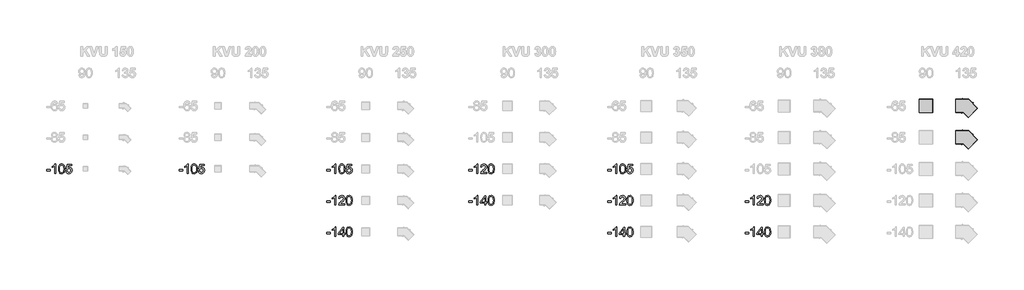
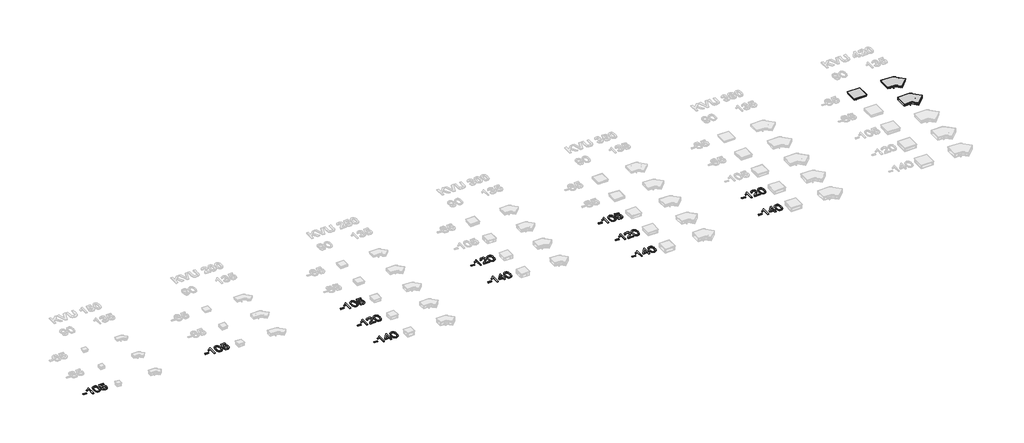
# One storey, part 2 of 6: 18 proxies.
"""IFC4 building model written with IfcOpenShell, lengths in millimetres."""

from ifc_helpers import new_model, si_unit, origin, origin_with_axes, place, context, project, spatial, polyline, outline, extrude, transform, mapped, element, save
from components import mechanical_equipment_346dda6b, mechanical_equipment_fd9d8960, mechanical_equipment_7196e186, mechanical_equipment_f14935d1, mechanical_equipment_ce1018f7

model = new_model("IFC4")

# Units and contexts
model_context = context("Model", 3, world=origin())
ifc_project = project(units=[si_unit("LENGTHUNIT", "METRE", prefix="MILLI")], contexts=[model_context])

# Site, building, storey
site = spatial("IfcSite", under=ifc_project)
building = spatial("IfcBuilding", under=site)
storey = spatial("IfcBuildingStorey", under=building, Name="Этаж 01", Elevation=0.0)

# Proxies
placement = place(None, origin())
mechanical_equipment_shape = mechanical_equipment_346dda6b(model_context)
element("IfcBuildingElementProxy", 1, Name="TECHNO_Угловой элемент_KVU : 420_065_90°", ObjectType="TECHNO_Угловой элемент_KVU : 420_065_90°", at=placement, inside=storey, context=model_context, shape_type="MappedRepresentation", body=[
    mapped(mechanical_equipment_shape, transform((23528.7177503, 1218.1365205, 0.0), x_axis=(1.0, 0.0, 0.0), y_axis=(0.0, 1.0, 0.0), z_axis=(0.0, 0.0, 1.0))),
])
mechanical_equipment_2_shape = mechanical_equipment_fd9d8960(model_context)
element("IfcBuildingElementProxy", 2, Name="TECHNO_Решетка_KVU : Решетка рулонная деревянная / Светлое дерево", ObjectType="TECHNO_Решетка_KVU : Решетка рулонная деревянная / Светлое дерево", at=placement, inside=storey, context=model_context, shape_type="MappedRepresentation", body=[
    mapped(mechanical_equipment_2_shape, transform((23738.7177503, 1218.1365205, 0.0), x_axis=(1.0, 0.0, 0.0), y_axis=(0.0, 1.0, 0.0), z_axis=(0.0, 0.0, 1.0))),
])
mechanical_equipment_3_shape = mechanical_equipment_7196e186(model_context)
element("IfcBuildingElementProxy", 3, Name="TECHNO_Угловой элемент_KVU : 420_065_135°", ObjectType="TECHNO_Угловой элемент_KVU : 420_065_135°", at=placement, inside=storey, context=model_context, shape_type="MappedRepresentation", body=[
    mapped(mechanical_equipment_3_shape, transform((24685.1025984, 1218.1365205, 0.0), x_axis=(1.0, 0.0, 0.0), y_axis=(0.0, 1.0, 0.0), z_axis=(0.0, 0.0, 1.0))),
])
mechanical_equipment_4_shape = mechanical_equipment_f14935d1(model_context)
element("IfcBuildingElementProxy", 4, Name="TECHNO_Решетка_KVU : Решетка рулонная алюминиевая/ Белый RAL 9016", ObjectType="TECHNO_Решетка_KVU : Решетка рулонная алюминиевая/ Белый RAL 9016", at=placement, inside=storey, context=model_context, shape_type="MappedRepresentation", body=[
    mapped(mechanical_equipment_4_shape, transform((24998.7177503, 1218.1365205, 0.0), x_axis=(1.0, 0.0, 0.0), y_axis=(0.0, 1.0, 0.0), z_axis=(0.0, 0.0, 1.0))),
])
element("IfcBuildingElementProxy", 5, Name="TECHNO_Решетка_KVU : Решетка рулонная алюминиевая/ Белый RAL 9016", ObjectType="TECHNO_Решетка_KVU : Решетка рулонная алюминиевая/ Белый RAL 9016", at=placement, inside=storey, context=model_context, shape_type="MappedRepresentation", body=[
    mapped(mechanical_equipment_4_shape, transform((24998.7177503, 218.1365205, 0.0), x_axis=(1.0, 0.0, 0.0), y_axis=(0.0, 1.0, 0.0), z_axis=(0.0, 0.0, 1.0))),
])
mechanical_equipment_5_shape = mechanical_equipment_ce1018f7(model_context)
element("IfcBuildingElementProxy", 6, Name="TECHNO_Угловой элемент_KVU : 420_085_135°", ObjectType="TECHNO_Угловой элемент_KVU : 420_085_135°", at=placement, inside=storey, context=model_context, shape_type="MappedRepresentation", body=[
    mapped(mechanical_equipment_5_shape, transform((24685.1025984, 218.1365205, 0.0), x_axis=(1.0, 0.0, 0.0), y_axis=(0.0, 1.0, 0.0), z_axis=(0.0, 0.0, 1.0))),
])
element("IfcBuildingElementProxy", 7, Name="300", ObjectType="300", at=placement, inside=storey, context=model_context, shape_type="SweptSolid", body=[
    extrude(outline(polyline([(-4133.3096408, -842.3945783), (-4133.3096408, -804.723462), (-4015.5874023, -804.723462), (-4015.5874023, -842.3945783), (-4133.3096408, -842.3945783)])), origin_with_axes(), (0.0, 0.0, 1.0), 20.0),
    extrude(outline(polyline([(-3841.3584894, -931.8634795), (-3879.0296057, -931.8634795), (-3879.0296057, -697.0076138), (-3914.7141592, -722.4282597), (-3954.3718383, -741.4477588), (-3954.3718383, -705.8367817), (-3924.7849289, -689.7419444), (-3899.1527509, -670.5936865), (-3878.9468323, -650.2314181), (-3865.6387011, -630.4945491), (-3841.3584894, -630.4945491), (-3841.3584894, -931.8634795)])), origin_with_axes(), (0.0, 0.0, 1.0), 20.0),
    extrude(outline(polyline([(-3751.8895882, -783.6070355), (-3749.1212762, -735.3685089), (-3740.8163401, -696.8972492), (-3727.0575535, -667.6046453), (-3707.9276898, -646.9020861), (-3683.2887931, -634.5964333), (-3653.0029079, -630.4945491), (-3629.789554, -632.9225702), (-3609.0042213, -640.2066337), (-3591.621797, -652.061631), (-3578.6171685, -668.2024536), (-3568.7947192, -688.4911456), (-3560.9588327, -712.7897514), (-3555.8268789, -743.6458537), (-3554.1162276, -783.6070355), (-3556.8569484, -831.5696506), (-3565.079111, -869.9489397), (-3578.7551242, -899.2691348), (-3597.8573968, -920.0544675), (-3622.5514757, -932.4428937), (-3653.0029079, -936.5723691), (-3673.7514524, -934.7789443), (-3692.1455522, -929.3986702), (-3708.1852072, -920.4315465), (-3721.8704174, -907.8775734), (-3735.0038046, -885.1838529), (-3744.3847955, -856.907523), (-3750.01339, -823.0485839), (-3751.8895882, -783.6070355)]), holes=[polyline([(-3714.2184719, -783.5334591), (-3709.8038879, -842.7900514), (-3704.285658, -863.0580501), (-3696.5601361, -877.0858504), (-3676.8416612, -893.4474022), (-3653.0029079, -898.9012528), (-3629.1641546, -893.4290081), (-3609.4456797, -877.012274), (-3601.7201578, -862.9614811), (-3596.2019278, -842.6980809), (-3591.7873439, -783.5334591), (-3596.054775, -725.6104389), (-3601.389064, -705.4091189), (-3608.8570685, -691.0479255), (-3628.5387552, -673.8862304), (-3653.4443663, -668.1656654), (-3677.0256022, -673.2056487), (-3695.9715249, -688.3255987), (-3703.9545642, -703.9605835), (-3709.6567351, -725.0402218), (-3714.2184719, -783.5334591)])]), origin_with_axes(), (0.0, 0.0, 1.0), 20.0),
    extrude(outline(polyline([(-3521.1540008, -851.8123574), (-3483.4828845, -847.1034678), (-3476.566703, -869.7190135), (-3464.5001736, -885.9150183), (-3447.3384785, -895.6546941), (-3425.1368001, -898.9012528), (-3398.1342616, -894.3855013), (-3377.9007519, -880.8382468), (-3365.2640054, -859.8229878), (-3361.0517565, -832.9032228), (-3364.9972909, -807.5561534), (-3376.8338941, -788.1687722), (-3396.6535366, -775.8631195), (-3424.5481889, -771.7612352), (-3442.822727, -773.3983101), (-3457.6207802, -778.3095347), (-3478.773995, -795.3056829), (-3516.4451113, -790.5967934), (-3483.4828845, -635.2034386), (-3337.5073088, -635.2034386), (-3337.5073088, -672.8745549), (-3453.0222553, -672.8745549), (-3469.1354867, -755.868733), (-3442.2249187, -739.5347724), (-3414.0267638, -734.0901189), (-3395.6809486, -735.7777776), (-3378.8296539, -740.8407535), (-3363.4728799, -749.2790468), (-3349.6106265, -761.0926574), (-3338.1350075, -775.5596168), (-3329.9381368, -791.9579568), (-3325.0200143, -810.2876772), (-3323.3806402, -830.5487781), (-3329.2851462, -868.2198944), (-3336.6657788, -885.0137074), (-3346.9986643, -900.4463571), (-3362.6520432, -916.2514874), (-3380.9173842, -927.5408661), (-3401.7946875, -934.3144933), (-3425.2839529, -936.5723691), (-3462.2836845, -930.7690306), (-3477.9623553, -923.5148575), (-3491.7602294, -913.3590152), (-3503.2404469, -900.8073413), (-3511.966148, -886.3656738), (-3521.1540008, -851.8123574)])), origin_with_axes(), (0.0, 0.0, 1.0), 20.0),
])
element("IfcBuildingElementProxy", 8, Name="300", ObjectType="300", at=placement, inside=storey, context=model_context, shape_type="SweptSolid", body=[
    extrude(outline(polyline([(66.6903592, -842.3945783), (66.6903592, -804.723462), (184.4125977, -804.723462), (184.4125977, -842.3945783), (66.6903592, -842.3945783)])), origin_with_axes(), (0.0, 0.0, 1.0), 20.0),
    extrude(outline(polyline([(358.6415106, -931.8634795), (320.9703943, -931.8634795), (320.9703943, -697.0076138), (285.2858408, -722.4282597), (245.6281617, -741.4477588), (245.6281617, -705.8367817), (275.2150711, -689.7419444), (300.8472491, -670.5936865), (321.0531677, -650.2314181), (334.3612989, -630.4945491), (358.6415106, -630.4945491), (358.6415106, -931.8634795)])), origin_with_axes(), (0.0, 0.0, 1.0), 20.0),
    extrude(outline(polyline([(448.1104118, -783.6070355), (450.8787238, -735.3685089), (459.1836599, -696.8972492), (472.9424465, -667.6046453), (492.0723102, -646.9020861), (516.7112069, -634.5964333), (546.9970921, -630.4945491), (570.210446, -632.9225702), (590.9957787, -640.2066337), (608.378203, -652.061631), (621.3828315, -668.2024536), (631.2052808, -688.4911456), (639.0411673, -712.7897514), (644.1731211, -743.6458537), (645.8837724, -783.6070355), (643.1430516, -831.5696506), (634.920889, -869.9489397), (621.2448758, -899.2691348), (602.1426032, -920.0544675), (577.4485243, -932.4428937), (546.9970921, -936.5723691), (526.2485476, -934.7789443), (507.8544478, -929.3986702), (491.8147928, -920.4315465), (478.1295826, -907.8775734), (464.9961954, -885.1838529), (455.6152045, -856.907523), (449.98661, -823.0485839), (448.1104118, -783.6070355)]), holes=[polyline([(485.7815281, -783.5334591), (490.1961121, -842.7900514), (495.714342, -863.0580501), (503.4398639, -877.0858504), (523.1583388, -893.4474022), (546.9970921, -898.9012528), (570.8358454, -893.4290081), (590.5543203, -877.012274), (598.2798422, -862.9614811), (603.7980722, -842.6980809), (608.2126561, -783.5334591), (603.945225, -725.6104389), (598.610936, -705.4091189), (591.1429315, -691.0479255), (571.4612448, -673.8862304), (546.5556337, -668.1656654), (522.9743978, -673.2056487), (504.0284751, -688.3255987), (496.0454358, -703.9605835), (490.3432649, -725.0402218), (485.7815281, -783.5334591)])]), origin_with_axes(), (0.0, 0.0, 1.0), 20.0),
    extrude(outline(polyline([(678.8459992, -851.8123574), (716.5171155, -847.1034678), (723.433297, -869.7190135), (735.4998264, -885.9150183), (752.6615215, -895.6546941), (774.8631999, -898.9012528), (801.8657384, -894.3855013), (822.0992481, -880.8382468), (834.7359946, -859.8229878), (838.9482435, -832.9032228), (835.0027091, -807.5561534), (823.1661059, -788.1687722), (803.3464634, -775.8631195), (775.4518111, -771.7612352), (757.177273, -773.3983101), (742.3792198, -778.3095347), (721.226005, -795.3056829), (683.5548887, -790.5967934), (716.5171155, -635.2034386), (862.4926912, -635.2034386), (862.4926912, -672.8745549), (746.9777447, -672.8745549), (730.8645133, -755.868733), (757.7750813, -739.5347724), (785.9732362, -734.0901189), (804.3190514, -735.7777776), (821.1703461, -740.8407535), (836.5271201, -749.2790468), (850.3893735, -761.0926574), (861.8649925, -775.5596168), (870.0618632, -791.9579568), (874.9799857, -810.2876772), (876.6193598, -830.5487781), (870.7148538, -868.2198944), (863.3342212, -885.0137074), (853.0013357, -900.4463571), (837.3479568, -916.2514874), (819.0826158, -927.5408661), (798.2053125, -934.3144933), (774.7160471, -936.5723691), (737.7163155, -930.7690306), (722.0376447, -923.5148575), (708.2397706, -913.3590152), (696.7595531, -900.8073413), (688.033852, -886.3656738), (678.8459992, -851.8123574)])), origin_with_axes(), (0.0, 0.0, 1.0), 20.0),
])
element("IfcBuildingElementProxy", 9, Name="300", ObjectType="300", at=placement, inside=storey, context=model_context, shape_type="SweptSolid", body=[
    extrude(outline(polyline([(4746.6903592, -842.3945783), (4746.6903592, -804.723462), (4864.4125977, -804.723462), (4864.4125977, -842.3945783), (4746.6903592, -842.3945783)])), origin_with_axes(), (0.0, 0.0, 1.0), 20.0),
    extrude(outline(polyline([(5038.6415106, -931.8634795), (5000.9703943, -931.8634795), (5000.9703943, -697.0076138), (4965.2858408, -722.4282597), (4925.6281617, -741.4477588), (4925.6281617, -705.8367817), (4955.2150711, -689.7419444), (4980.8472491, -670.5936865), (5001.0531677, -650.2314181), (5014.3612989, -630.4945491), (5038.6415106, -630.4945491), (5038.6415106, -931.8634795)])), origin_with_axes(), (0.0, 0.0, 1.0), 20.0),
    extrude(outline(polyline([(5128.1104118, -783.6070355), (5130.8787238, -735.3685089), (5139.1836599, -696.8972492), (5152.9424465, -667.6046453), (5172.0723102, -646.9020861), (5196.7112069, -634.5964333), (5226.9970921, -630.4945491), (5250.210446, -632.9225702), (5270.9957787, -640.2066337), (5288.378203, -652.061631), (5301.3828315, -668.2024536), (5311.2052808, -688.4911456), (5319.0411673, -712.7897514), (5324.1731211, -743.6458537), (5325.8837724, -783.6070355), (5323.1430516, -831.5696506), (5314.920889, -869.9489397), (5301.2448758, -899.2691348), (5282.1426032, -920.0544675), (5257.4485243, -932.4428937), (5226.9970921, -936.5723691), (5206.2485476, -934.7789443), (5187.8544478, -929.3986702), (5171.8147928, -920.4315465), (5158.1295826, -907.8775734), (5144.9961954, -885.1838529), (5135.6152045, -856.907523), (5129.98661, -823.0485839), (5128.1104118, -783.6070355)]), holes=[polyline([(5165.7815281, -783.5334591), (5170.1961121, -842.7900514), (5175.714342, -863.0580501), (5183.4398639, -877.0858504), (5203.1583388, -893.4474022), (5226.9970921, -898.9012528), (5250.8358454, -893.4290081), (5270.5543203, -877.012274), (5278.2798422, -862.9614811), (5283.7980722, -842.6980809), (5288.2126561, -783.5334591), (5283.945225, -725.6104389), (5278.610936, -705.4091189), (5271.1429315, -691.0479255), (5251.4612448, -673.8862304), (5226.5556337, -668.1656654), (5202.9743978, -673.2056487), (5184.0284751, -688.3255987), (5176.0454358, -703.9605835), (5170.3432649, -725.0402218), (5165.7815281, -783.5334591)])]), origin_with_axes(), (0.0, 0.0, 1.0), 20.0),
    extrude(outline(polyline([(5358.8459992, -851.8123574), (5396.5171155, -847.1034678), (5403.433297, -869.7190135), (5415.4998264, -885.9150183), (5432.6615215, -895.6546941), (5454.8631999, -898.9012528), (5481.8657384, -894.3855013), (5502.0992481, -880.8382468), (5514.7359946, -859.8229878), (5518.9482435, -832.9032228), (5515.0027091, -807.5561534), (5503.1661059, -788.1687722), (5483.3464634, -775.8631195), (5455.4518111, -771.7612352), (5437.177273, -773.3983101), (5422.3792198, -778.3095347), (5401.226005, -795.3056829), (5363.5548887, -790.5967934), (5396.5171155, -635.2034386), (5542.4926912, -635.2034386), (5542.4926912, -672.8745549), (5426.9777447, -672.8745549), (5410.8645133, -755.868733), (5437.7750813, -739.5347724), (5465.9732362, -734.0901189), (5484.3190514, -735.7777776), (5501.1703461, -740.8407535), (5516.5271201, -749.2790468), (5530.3893735, -761.0926574), (5541.8649925, -775.5596168), (5550.0618632, -791.9579568), (5554.9799857, -810.2876772), (5556.6193598, -830.5487781), (5550.7148538, -868.2198944), (5543.3342212, -885.0137074), (5533.0013357, -900.4463571), (5517.3479568, -916.2514874), (5499.0826158, -927.5408661), (5478.2053125, -934.3144933), (5454.7160471, -936.5723691), (5417.7163155, -930.7690306), (5402.0376447, -923.5148575), (5388.2397706, -913.3590152), (5376.7595531, -900.8073413), (5368.033852, -886.3656738), (5358.8459992, -851.8123574)])), origin_with_axes(), (0.0, 0.0, 1.0), 20.0),
])
element("IfcBuildingElementProxy", 10, Name="300", ObjectType="300", at=placement, inside=storey, context=model_context, shape_type="SweptSolid", body=[
    extrude(outline(polyline([(4746.6903592, -1842.3945783), (4746.6903592, -1804.723462), (4864.4125977, -1804.723462), (4864.4125977, -1842.3945783), (4746.6903592, -1842.3945783)])), origin_with_axes(), (0.0, 0.0, 1.0), 20.0),
    extrude(outline(polyline([(5038.6415106, -1931.8634795), (5000.9703943, -1931.8634795), (5000.9703943, -1697.0076138), (4965.2858408, -1722.4282597), (4925.6281617, -1741.4477588), (4925.6281617, -1705.8367817), (4955.2150711, -1689.7419444), (4980.8472491, -1670.5936865), (5001.0531677, -1650.2314181), (5014.3612989, -1630.4945491), (5038.6415106, -1630.4945491), (5038.6415106, -1931.8634795)])), origin_with_axes(), (0.0, 0.0, 1.0), 20.0),
    extrude(outline(polyline([(5321.1748829, -1894.1923632), (5321.1748829, -1931.8634795), (5123.4015223, -1931.8634795), (5127.4482242, -1905.8910107), (5136.7372446, -1885.5931216), (5150.3304843, -1865.9022378), (5169.993777, -1845.291649), (5197.4929561, -1822.234645), (5238.1439166, -1786.1270271), (5262.5344929, -1759.4739766), (5274.729781, -1737.8425153), (5278.794877, -1716.7996651), (5274.9597072, -1697.9365158), (5263.4541978, -1682.2555458), (5245.7682709, -1671.6881355), (5223.3918486, -1668.1656654), (5199.8933861, -1671.605362), (5181.6372421, -1681.924452), (5169.8558212, -1698.3135949), (5165.7815281, -1719.9634503), (5128.1104118, -1715.2545608), (5137.2430823, -1678.8158491), (5145.7894409, -1664.2799118), (5156.9891484, -1652.1995868), (5170.5846874, -1642.7036328), (5186.3185405, -1635.9208085), (5224.201189, -1630.4945491), (5244.3910127, -1632.0028653), (5262.3597489, -1636.5278138), (5278.1073976, -1644.0693947), (5291.6339587, -1654.627608), (5302.4979738, -1667.4207043), (5310.2579847, -1681.6669346), (5314.9139912, -1697.3662987), (5316.4659933, -1714.5187968), (5314.7921303, -1732.5358175), (5309.770541, -1750.2401385), (5300.8585997, -1768.2479622), (5287.5136803, -1787.1754908), (5266.240904, -1809.7726424), (5233.5453916, -1838.7893347), (5190.2088926, -1875.0257113), (5173.2127444, -1894.1923632), (5321.1748829, -1894.1923632)])), origin_with_axes(), (0.0, 0.0, 1.0), 20.0),
    extrude(outline(polyline([(5358.8459992, -1783.6070355), (5361.6143112, -1735.3685089), (5369.9192472, -1696.8972492), (5383.6780339, -1667.6046453), (5402.8078976, -1646.9020861), (5427.4467942, -1634.5964333), (5457.7326795, -1630.4945491), (5480.9460334, -1632.9225702), (5501.7313661, -1640.2066337), (5519.1137904, -1652.061631), (5532.1184189, -1668.2024536), (5541.9408682, -1688.4911456), (5549.7767547, -1712.7897514), (5554.9087085, -1743.6458537), (5556.6193598, -1783.6070355), (5553.8786389, -1831.5696506), (5545.6564763, -1869.9489397), (5531.9804632, -1899.2691348), (5512.8781906, -1920.0544675), (5488.1841116, -1932.4428937), (5457.7326795, -1936.5723691), (5436.984135, -1934.7789443), (5418.5900352, -1929.3986702), (5402.5503802, -1920.4315465), (5388.86517, -1907.8775734), (5375.7317828, -1885.1838529), (5366.3507919, -1856.907523), (5360.7221974, -1823.0485839), (5358.8459992, -1783.6070355)]), holes=[polyline([(5396.5171155, -1783.5334591), (5400.9316994, -1842.7900514), (5406.4499294, -1863.0580501), (5414.1754513, -1877.0858504), (5433.8939262, -1893.4474022), (5457.7326795, -1898.9012528), (5481.5714328, -1893.4290081), (5501.2899077, -1877.012274), (5509.0154296, -1862.9614811), (5514.5336596, -1842.6980809), (5518.9482435, -1783.5334591), (5514.6808123, -1725.6104389), (5509.3465234, -1705.4091189), (5501.8785189, -1691.0479255), (5482.1968322, -1673.8862304), (5457.2912211, -1668.1656654), (5433.7099852, -1673.2056487), (5414.7640625, -1688.3255987), (5406.7810232, -1703.9605835), (5401.0788522, -1725.0402218), (5396.5171155, -1783.5334591)])]), origin_with_axes(), (0.0, 0.0, 1.0), 20.0),
])
element("IfcBuildingElementProxy", 11, Name="300", ObjectType="300", at=placement, inside=storey, context=model_context, shape_type="SweptSolid", body=[
    extrude(outline(polyline([(4746.6903592, -2842.3945783), (4746.6903592, -2804.723462), (4864.4125977, -2804.723462), (4864.4125977, -2842.3945783), (4746.6903592, -2842.3945783)])), origin_with_axes(), (0.0, 0.0, 1.0), 20.0),
    extrude(outline(polyline([(5038.6415106, -2931.8634795), (5000.9703943, -2931.8634795), (5000.9703943, -2697.0076138), (4965.2858408, -2722.4282597), (4925.6281617, -2741.4477588), (4925.6281617, -2705.8367817), (4955.2150711, -2689.7419444), (4980.8472491, -2670.5936865), (5001.0531677, -2650.2314181), (5014.3612989, -2630.4945491), (5038.6415106, -2630.4945491), (5038.6415106, -2931.8634795)])), origin_with_axes(), (0.0, 0.0, 1.0), 20.0),
    extrude(outline(polyline([(5250.5415398, -2931.8634795), (5250.5415398, -2861.2301365), (5113.9837432, -2861.2301365), (5113.9837432, -2823.5590201), (5259.9593189, -2635.2034386), (5288.2126561, -2635.2034386), (5288.2126561, -2823.5590201), (5325.8837724, -2823.5590201), (5325.8837724, -2861.2301365), (5288.2126561, -2861.2301365), (5288.2126561, -2931.8634795), (5250.5415398, -2931.8634795)]), holes=[polyline([(5250.5415398, -2823.5590201), (5250.5415398, -2707.1611569), (5160.3368746, -2823.5590201), (5250.5415398, -2823.5590201)])]), origin_with_axes(), (0.0, 0.0, 1.0), 20.0),
    extrude(outline(polyline([(5358.8459992, -2783.6070355), (5361.6143112, -2735.3685089), (5369.9192472, -2696.8972492), (5383.6780339, -2667.6046453), (5402.8078976, -2646.9020861), (5427.4467942, -2634.5964333), (5457.7326795, -2630.4945491), (5480.9460334, -2632.9225702), (5501.7313661, -2640.2066337), (5519.1137904, -2652.061631), (5532.1184189, -2668.2024536), (5541.9408682, -2688.4911456), (5549.7767547, -2712.7897514), (5554.9087085, -2743.6458537), (5556.6193598, -2783.6070355), (5553.8786389, -2831.5696506), (5545.6564763, -2869.9489397), (5531.9804632, -2899.2691348), (5512.8781906, -2920.0544675), (5488.1841116, -2932.4428937), (5457.7326795, -2936.5723691), (5436.984135, -2934.7789443), (5418.5900352, -2929.3986702), (5402.5503802, -2920.4315465), (5388.86517, -2907.8775734), (5375.7317828, -2885.1838529), (5366.3507919, -2856.907523), (5360.7221974, -2823.0485839), (5358.8459992, -2783.6070355)]), holes=[polyline([(5396.5171155, -2783.5334591), (5400.9316994, -2842.7900514), (5406.4499294, -2863.0580501), (5414.1754513, -2877.0858504), (5433.8939262, -2893.4474022), (5457.7326795, -2898.9012528), (5481.5714328, -2893.4290081), (5501.2899077, -2877.012274), (5509.0154296, -2862.9614811), (5514.5336596, -2842.6980809), (5518.9482435, -2783.5334591), (5514.6808123, -2725.6104389), (5509.3465234, -2705.4091189), (5501.8785189, -2691.0479255), (5482.1968322, -2673.8862304), (5457.2912211, -2668.1656654), (5433.7099852, -2673.2056487), (5414.7640625, -2688.3255987), (5406.7810232, -2703.9605835), (5401.0788522, -2725.0402218), (5396.5171155, -2783.5334591)])]), origin_with_axes(), (0.0, 0.0, 1.0), 20.0),
])
element("IfcBuildingElementProxy", 12, Name="300", ObjectType="300", at=placement, inside=storey, context=model_context, shape_type="SweptSolid", body=[
    extrude(outline(polyline([(9246.6903592, -842.3945783), (9246.6903592, -804.723462), (9364.4125977, -804.723462), (9364.4125977, -842.3945783), (9246.6903592, -842.3945783)])), origin_with_axes(), (0.0, 0.0, 1.0), 20.0),
    extrude(outline(polyline([(9538.6415106, -931.8634795), (9500.9703943, -931.8634795), (9500.9703943, -697.0076138), (9465.2858408, -722.4282597), (9425.6281617, -741.4477588), (9425.6281617, -705.8367817), (9455.2150711, -689.7419444), (9480.8472491, -670.5936865), (9501.0531677, -650.2314181), (9514.3612989, -630.4945491), (9538.6415106, -630.4945491), (9538.6415106, -931.8634795)])), origin_with_axes(), (0.0, 0.0, 1.0), 20.0),
    extrude(outline(polyline([(9821.1748829, -894.1923632), (9821.1748829, -931.8634795), (9623.4015223, -931.8634795), (9627.4482242, -905.8910107), (9636.7372446, -885.5931216), (9650.3304843, -865.9022378), (9669.993777, -845.291649), (9697.4929561, -822.234645), (9738.1439166, -786.1270271), (9762.5344929, -759.4739766), (9774.729781, -737.8425153), (9778.794877, -716.7996651), (9774.9597072, -697.9365158), (9763.4541978, -682.2555458), (9745.7682709, -671.6881355), (9723.3918486, -668.1656654), (9699.8933861, -671.605362), (9681.6372421, -681.924452), (9669.8558212, -698.3135949), (9665.7815281, -719.9634503), (9628.1104118, -715.2545608), (9637.2430823, -678.8158491), (9645.7894409, -664.2799118), (9656.9891484, -652.1995868), (9670.5846874, -642.7036328), (9686.3185405, -635.9208085), (9724.201189, -630.4945491), (9744.3910127, -632.0028653), (9762.3597489, -636.5278138), (9778.1073976, -644.0693947), (9791.6339587, -654.627608), (9802.4979738, -667.4207043), (9810.2579847, -681.6669346), (9814.9139912, -697.3662987), (9816.4659933, -714.5187968), (9814.7921303, -732.5358175), (9809.770541, -750.2401385), (9800.8585997, -768.2479622), (9787.5136803, -787.1754908), (9766.240904, -809.7726424), (9733.5453916, -838.7893347), (9690.2088926, -875.0257113), (9673.2127444, -894.1923632), (9821.1748829, -894.1923632)])), origin_with_axes(), (0.0, 0.0, 1.0), 20.0),
    extrude(outline(polyline([(9858.8459992, -783.6070355), (9861.6143112, -735.3685089), (9869.9192472, -696.8972492), (9883.6780339, -667.6046453), (9902.8078976, -646.9020861), (9927.4467942, -634.5964333), (9957.7326795, -630.4945491), (9980.9460334, -632.9225702), (10001.7313661, -640.2066337), (10019.1137904, -652.061631), (10032.1184189, -668.2024536), (10041.9408682, -688.4911456), (10049.7767547, -712.7897514), (10054.9087085, -743.6458537), (10056.6193598, -783.6070355), (10053.8786389, -831.5696506), (10045.6564763, -869.9489397), (10031.9804632, -899.2691348), (10012.8781906, -920.0544675), (9988.1841116, -932.4428937), (9957.7326795, -936.5723691), (9936.984135, -934.7789443), (9918.5900352, -929.3986702), (9902.5503802, -920.4315465), (9888.86517, -907.8775734), (9875.7317828, -885.1838529), (9866.3507919, -856.907523), (9860.7221974, -823.0485839), (9858.8459992, -783.6070355)]), holes=[polyline([(9896.5171155, -783.5334591), (9900.9316994, -842.7900514), (9906.4499294, -863.0580501), (9914.1754513, -877.0858504), (9933.8939262, -893.4474022), (9957.7326795, -898.9012528), (9981.5714328, -893.4290081), (10001.2899077, -877.012274), (10009.0154296, -862.9614811), (10014.5336596, -842.6980809), (10018.9482435, -783.5334591), (10014.6808123, -725.6104389), (10009.3465234, -705.4091189), (10001.8785189, -691.0479255), (9982.1968322, -673.8862304), (9957.2912211, -668.1656654), (9933.7099852, -673.2056487), (9914.7640625, -688.3255987), (9906.7810232, -703.9605835), (9901.0788522, -725.0402218), (9896.5171155, -783.5334591)])]), origin_with_axes(), (0.0, 0.0, 1.0), 20.0),
])
element("IfcBuildingElementProxy", 13, Name="300", ObjectType="300", at=placement, inside=storey, context=model_context, shape_type="SweptSolid", body=[
    extrude(outline(polyline([(9246.6903592, -1842.3945783), (9246.6903592, -1804.723462), (9364.4125977, -1804.723462), (9364.4125977, -1842.3945783), (9246.6903592, -1842.3945783)])), origin_with_axes(), (0.0, 0.0, 1.0), 20.0),
    extrude(outline(polyline([(9538.6415106, -1931.8634795), (9500.9703943, -1931.8634795), (9500.9703943, -1697.0076138), (9465.2858408, -1722.4282597), (9425.6281617, -1741.4477588), (9425.6281617, -1705.8367817), (9455.2150711, -1689.7419444), (9480.8472491, -1670.5936865), (9501.0531677, -1650.2314181), (9514.3612989, -1630.4945491), (9538.6415106, -1630.4945491), (9538.6415106, -1931.8634795)])), origin_with_axes(), (0.0, 0.0, 1.0), 20.0),
    extrude(outline(polyline([(9750.5415398, -1931.8634795), (9750.5415398, -1861.2301365), (9613.9837432, -1861.2301365), (9613.9837432, -1823.5590201), (9759.9593189, -1635.2034386), (9788.2126561, -1635.2034386), (9788.2126561, -1823.5590201), (9825.8837724, -1823.5590201), (9825.8837724, -1861.2301365), (9788.2126561, -1861.2301365), (9788.2126561, -1931.8634795), (9750.5415398, -1931.8634795)]), holes=[polyline([(9750.5415398, -1823.5590201), (9750.5415398, -1707.1611569), (9660.3368746, -1823.5590201), (9750.5415398, -1823.5590201)])]), origin_with_axes(), (0.0, 0.0, 1.0), 20.0),
    extrude(outline(polyline([(9858.8459992, -1783.6070355), (9861.6143112, -1735.3685089), (9869.9192472, -1696.8972492), (9883.6780339, -1667.6046453), (9902.8078976, -1646.9020861), (9927.4467942, -1634.5964333), (9957.7326795, -1630.4945491), (9980.9460334, -1632.9225702), (10001.7313661, -1640.2066337), (10019.1137904, -1652.061631), (10032.1184189, -1668.2024536), (10041.9408682, -1688.4911456), (10049.7767547, -1712.7897514), (10054.9087085, -1743.6458537), (10056.6193598, -1783.6070355), (10053.8786389, -1831.5696506), (10045.6564763, -1869.9489397), (10031.9804632, -1899.2691348), (10012.8781906, -1920.0544675), (9988.1841116, -1932.4428937), (9957.7326795, -1936.5723691), (9936.984135, -1934.7789443), (9918.5900352, -1929.3986702), (9902.5503802, -1920.4315465), (9888.86517, -1907.8775734), (9875.7317828, -1885.1838529), (9866.3507919, -1856.907523), (9860.7221974, -1823.0485839), (9858.8459992, -1783.6070355)]), holes=[polyline([(9896.5171155, -1783.5334591), (9900.9316994, -1842.7900514), (9906.4499294, -1863.0580501), (9914.1754513, -1877.0858504), (9933.8939262, -1893.4474022), (9957.7326795, -1898.9012528), (9981.5714328, -1893.4290081), (10001.2899077, -1877.012274), (10009.0154296, -1862.9614811), (10014.5336596, -1842.6980809), (10018.9482435, -1783.5334591), (10014.6808123, -1725.6104389), (10009.3465234, -1705.4091189), (10001.8785189, -1691.0479255), (9982.1968322, -1673.8862304), (9957.2912211, -1668.1656654), (9933.7099852, -1673.2056487), (9914.7640625, -1688.3255987), (9906.7810232, -1703.9605835), (9901.0788522, -1725.0402218), (9896.5171155, -1783.5334591)])]), origin_with_axes(), (0.0, 0.0, 1.0), 20.0),
])
element("IfcBuildingElementProxy", 14, Name="300", ObjectType="300", at=placement, inside=storey, context=model_context, shape_type="SweptSolid", body=[
    extrude(outline(polyline([(13646.6903592, -842.3945783), (13646.6903592, -804.723462), (13764.4125977, -804.723462), (13764.4125977, -842.3945783), (13646.6903592, -842.3945783)])), origin_with_axes(), (0.0, 0.0, 1.0), 20.0),
    extrude(outline(polyline([(13938.6415106, -931.8634795), (13900.9703943, -931.8634795), (13900.9703943, -697.0076138), (13865.2858408, -722.4282597), (13825.6281617, -741.4477588), (13825.6281617, -705.8367817), (13855.2150711, -689.7419444), (13880.8472491, -670.5936865), (13901.0531677, -650.2314181), (13914.3612989, -630.4945491), (13938.6415106, -630.4945491), (13938.6415106, -931.8634795)])), origin_with_axes(), (0.0, 0.0, 1.0), 20.0),
    extrude(outline(polyline([(14028.1104118, -783.6070355), (14030.8787238, -735.3685089), (14039.1836599, -696.8972492), (14052.9424465, -667.6046453), (14072.0723102, -646.9020861), (14096.7112069, -634.5964333), (14126.9970921, -630.4945491), (14150.210446, -632.9225702), (14170.9957787, -640.2066337), (14188.378203, -652.061631), (14201.3828315, -668.2024536), (14211.2052808, -688.4911456), (14219.0411673, -712.7897514), (14224.1731211, -743.6458537), (14225.8837724, -783.6070355), (14223.1430516, -831.5696506), (14214.920889, -869.9489397), (14201.2448758, -899.2691348), (14182.1426032, -920.0544675), (14157.4485243, -932.4428937), (14126.9970921, -936.5723691), (14106.2485476, -934.7789443), (14087.8544478, -929.3986702), (14071.8147928, -920.4315465), (14058.1295826, -907.8775734), (14044.9961954, -885.1838529), (14035.6152045, -856.907523), (14029.98661, -823.0485839), (14028.1104118, -783.6070355)]), holes=[polyline([(14065.7815281, -783.5334591), (14070.1961121, -842.7900514), (14075.714342, -863.0580501), (14083.4398639, -877.0858504), (14103.1583388, -893.4474022), (14126.9970921, -898.9012528), (14150.8358454, -893.4290081), (14170.5543203, -877.012274), (14178.2798422, -862.9614811), (14183.7980722, -842.6980809), (14188.2126561, -783.5334591), (14183.945225, -725.6104389), (14178.610936, -705.4091189), (14171.1429315, -691.0479255), (14151.4612448, -673.8862304), (14126.5556337, -668.1656654), (14102.9743978, -673.2056487), (14084.0284751, -688.3255987), (14076.0454358, -703.9605835), (14070.3432649, -725.0402218), (14065.7815281, -783.5334591)])]), origin_with_axes(), (0.0, 0.0, 1.0), 20.0),
    extrude(outline(polyline([(14258.8459992, -851.8123574), (14296.5171155, -847.1034678), (14303.433297, -869.7190135), (14315.4998264, -885.9150183), (14332.6615215, -895.6546941), (14354.8631999, -898.9012528), (14381.8657384, -894.3855013), (14402.0992481, -880.8382468), (14414.7359946, -859.8229878), (14418.9482435, -832.9032228), (14415.0027091, -807.5561534), (14403.1661059, -788.1687722), (14383.3464634, -775.8631195), (14355.4518111, -771.7612352), (14337.177273, -773.3983101), (14322.3792198, -778.3095347), (14301.226005, -795.3056829), (14263.5548887, -790.5967934), (14296.5171155, -635.2034386), (14442.4926912, -635.2034386), (14442.4926912, -672.8745549), (14326.9777447, -672.8745549), (14310.8645133, -755.868733), (14337.7750813, -739.5347724), (14365.9732362, -734.0901189), (14384.3190514, -735.7777776), (14401.1703461, -740.8407535), (14416.5271201, -749.2790468), (14430.3893735, -761.0926574), (14441.8649925, -775.5596168), (14450.0618632, -791.9579568), (14454.9799857, -810.2876772), (14456.6193598, -830.5487781), (14450.7148538, -868.2198944), (14443.3342212, -885.0137074), (14433.0013357, -900.4463571), (14417.3479568, -916.2514874), (14399.0826158, -927.5408661), (14378.2053125, -934.3144933), (14354.7160471, -936.5723691), (14317.7163155, -930.7690306), (14302.0376447, -923.5148575), (14288.2397706, -913.3590152), (14276.7595531, -900.8073413), (14268.033852, -886.3656738), (14258.8459992, -851.8123574)])), origin_with_axes(), (0.0, 0.0, 1.0), 20.0),
])
element("IfcBuildingElementProxy", 15, Name="300", ObjectType="300", at=placement, inside=storey, context=model_context, shape_type="SweptSolid", body=[
    extrude(outline(polyline([(13646.6903592, -1842.3945783), (13646.6903592, -1804.723462), (13764.4125977, -1804.723462), (13764.4125977, -1842.3945783), (13646.6903592, -1842.3945783)])), origin_with_axes(), (0.0, 0.0, 1.0), 20.0),
    extrude(outline(polyline([(13938.6415106, -1931.8634795), (13900.9703943, -1931.8634795), (13900.9703943, -1697.0076138), (13865.2858408, -1722.4282597), (13825.6281617, -1741.4477588), (13825.6281617, -1705.8367817), (13855.2150711, -1689.7419444), (13880.8472491, -1670.5936865), (13901.0531677, -1650.2314181), (13914.3612989, -1630.4945491), (13938.6415106, -1630.4945491), (13938.6415106, -1931.8634795)])), origin_with_axes(), (0.0, 0.0, 1.0), 20.0),
    extrude(outline(polyline([(14221.1748829, -1894.1923632), (14221.1748829, -1931.8634795), (14023.4015223, -1931.8634795), (14027.4482242, -1905.8910107), (14036.7372446, -1885.5931216), (14050.3304843, -1865.9022378), (14069.993777, -1845.291649), (14097.4929561, -1822.234645), (14138.1439166, -1786.1270271), (14162.5344929, -1759.4739766), (14174.729781, -1737.8425153), (14178.794877, -1716.7996651), (14174.9597072, -1697.9365158), (14163.4541978, -1682.2555458), (14145.7682709, -1671.6881355), (14123.3918486, -1668.1656654), (14099.8933861, -1671.605362), (14081.6372421, -1681.924452), (14069.8558212, -1698.3135949), (14065.7815281, -1719.9634503), (14028.1104118, -1715.2545608), (14037.2430823, -1678.8158491), (14045.7894409, -1664.2799118), (14056.9891484, -1652.1995868), (14070.5846874, -1642.7036328), (14086.3185405, -1635.9208085), (14124.201189, -1630.4945491), (14144.3910127, -1632.0028653), (14162.3597489, -1636.5278138), (14178.1073976, -1644.0693947), (14191.6339587, -1654.627608), (14202.4979738, -1667.4207043), (14210.2579847, -1681.6669346), (14214.9139912, -1697.3662987), (14216.4659933, -1714.5187968), (14214.7921303, -1732.5358175), (14209.770541, -1750.2401385), (14200.8585997, -1768.2479622), (14187.5136803, -1787.1754908), (14166.240904, -1809.7726424), (14133.5453916, -1838.7893347), (14090.2088926, -1875.0257113), (14073.2127444, -1894.1923632), (14221.1748829, -1894.1923632)])), origin_with_axes(), (0.0, 0.0, 1.0), 20.0),
    extrude(outline(polyline([(14258.8459992, -1783.6070355), (14261.6143112, -1735.3685089), (14269.9192472, -1696.8972492), (14283.6780339, -1667.6046453), (14302.8078976, -1646.9020861), (14327.4467942, -1634.5964333), (14357.7326795, -1630.4945491), (14380.9460334, -1632.9225702), (14401.7313661, -1640.2066337), (14419.1137904, -1652.061631), (14432.1184189, -1668.2024536), (14441.9408682, -1688.4911456), (14449.7767547, -1712.7897514), (14454.9087085, -1743.6458537), (14456.6193598, -1783.6070355), (14453.8786389, -1831.5696506), (14445.6564763, -1869.9489397), (14431.9804632, -1899.2691348), (14412.8781906, -1920.0544675), (14388.1841116, -1932.4428937), (14357.7326795, -1936.5723691), (14336.984135, -1934.7789443), (14318.5900352, -1929.3986702), (14302.5503802, -1920.4315465), (14288.86517, -1907.8775734), (14275.7317828, -1885.1838529), (14266.3507919, -1856.907523), (14260.7221974, -1823.0485839), (14258.8459992, -1783.6070355)]), holes=[polyline([(14296.5171155, -1783.5334591), (14300.9316994, -1842.7900514), (14306.4499294, -1863.0580501), (14314.1754513, -1877.0858504), (14333.8939262, -1893.4474022), (14357.7326795, -1898.9012528), (14381.5714328, -1893.4290081), (14401.2899077, -1877.012274), (14409.0154296, -1862.9614811), (14414.5336596, -1842.6980809), (14418.9482435, -1783.5334591), (14414.6808123, -1725.6104389), (14409.3465234, -1705.4091189), (14401.8785189, -1691.0479255), (14382.1968322, -1673.8862304), (14357.2912211, -1668.1656654), (14333.7099852, -1673.2056487), (14314.7640625, -1688.3255987), (14306.7810232, -1703.9605835), (14301.0788522, -1725.0402218), (14296.5171155, -1783.5334591)])]), origin_with_axes(), (0.0, 0.0, 1.0), 20.0),
])
element("IfcBuildingElementProxy", 16, Name="300", ObjectType="300", at=placement, inside=storey, context=model_context, shape_type="SweptSolid", body=[
    extrude(outline(polyline([(13646.6903592, -2842.3945783), (13646.6903592, -2804.723462), (13764.4125977, -2804.723462), (13764.4125977, -2842.3945783), (13646.6903592, -2842.3945783)])), origin_with_axes(), (0.0, 0.0, 1.0), 20.0),
    extrude(outline(polyline([(13938.6415106, -2931.8634795), (13900.9703943, -2931.8634795), (13900.9703943, -2697.0076138), (13865.2858408, -2722.4282597), (13825.6281617, -2741.4477588), (13825.6281617, -2705.8367817), (13855.2150711, -2689.7419444), (13880.8472491, -2670.5936865), (13901.0531677, -2650.2314181), (13914.3612989, -2630.4945491), (13938.6415106, -2630.4945491), (13938.6415106, -2931.8634795)])), origin_with_axes(), (0.0, 0.0, 1.0), 20.0),
    extrude(outline(polyline([(14150.5415398, -2931.8634795), (14150.5415398, -2861.2301365), (14013.9837432, -2861.2301365), (14013.9837432, -2823.5590201), (14159.9593189, -2635.2034386), (14188.2126561, -2635.2034386), (14188.2126561, -2823.5590201), (14225.8837724, -2823.5590201), (14225.8837724, -2861.2301365), (14188.2126561, -2861.2301365), (14188.2126561, -2931.8634795), (14150.5415398, -2931.8634795)]), holes=[polyline([(14150.5415398, -2823.5590201), (14150.5415398, -2707.1611569), (14060.3368746, -2823.5590201), (14150.5415398, -2823.5590201)])]), origin_with_axes(), (0.0, 0.0, 1.0), 20.0),
    extrude(outline(polyline([(14258.8459992, -2783.6070355), (14261.6143112, -2735.3685089), (14269.9192472, -2696.8972492), (14283.6780339, -2667.6046453), (14302.8078976, -2646.9020861), (14327.4467942, -2634.5964333), (14357.7326795, -2630.4945491), (14380.9460334, -2632.9225702), (14401.7313661, -2640.2066337), (14419.1137904, -2652.061631), (14432.1184189, -2668.2024536), (14441.9408682, -2688.4911456), (14449.7767547, -2712.7897514), (14454.9087085, -2743.6458537), (14456.6193598, -2783.6070355), (14453.8786389, -2831.5696506), (14445.6564763, -2869.9489397), (14431.9804632, -2899.2691348), (14412.8781906, -2920.0544675), (14388.1841116, -2932.4428937), (14357.7326795, -2936.5723691), (14336.984135, -2934.7789443), (14318.5900352, -2929.3986702), (14302.5503802, -2920.4315465), (14288.86517, -2907.8775734), (14275.7317828, -2885.1838529), (14266.3507919, -2856.907523), (14260.7221974, -2823.0485839), (14258.8459992, -2783.6070355)]), holes=[polyline([(14296.5171155, -2783.5334591), (14300.9316994, -2842.7900514), (14306.4499294, -2863.0580501), (14314.1754513, -2877.0858504), (14333.8939262, -2893.4474022), (14357.7326795, -2898.9012528), (14381.5714328, -2893.4290081), (14401.2899077, -2877.012274), (14409.0154296, -2862.9614811), (14414.5336596, -2842.6980809), (14418.9482435, -2783.5334591), (14414.6808123, -2725.6104389), (14409.3465234, -2705.4091189), (14401.8785189, -2691.0479255), (14382.1968322, -2673.8862304), (14357.2912211, -2668.1656654), (14333.7099852, -2673.2056487), (14314.7640625, -2688.3255987), (14306.7810232, -2703.9605835), (14301.0788522, -2725.0402218), (14296.5171155, -2783.5334591)])]), origin_with_axes(), (0.0, 0.0, 1.0), 20.0),
])
element("IfcBuildingElementProxy", 17, Name="300", ObjectType="300", at=placement, inside=storey, context=model_context, shape_type="SweptSolid", body=[
    extrude(outline(polyline([(18006.6903592, -1842.3945783), (18006.6903592, -1804.723462), (18124.4125977, -1804.723462), (18124.4125977, -1842.3945783), (18006.6903592, -1842.3945783)])), origin_with_axes(), (0.0, 0.0, 1.0), 20.0),
    extrude(outline(polyline([(18298.6415106, -1931.8634795), (18260.9703943, -1931.8634795), (18260.9703943, -1697.0076138), (18225.2858408, -1722.4282597), (18185.6281617, -1741.4477588), (18185.6281617, -1705.8367817), (18215.2150711, -1689.7419444), (18240.8472491, -1670.5936865), (18261.0531677, -1650.2314181), (18274.3612989, -1630.4945491), (18298.6415106, -1630.4945491), (18298.6415106, -1931.8634795)])), origin_with_axes(), (0.0, 0.0, 1.0), 20.0),
    extrude(outline(polyline([(18581.1748829, -1894.1923632), (18581.1748829, -1931.8634795), (18383.4015223, -1931.8634795), (18387.4482242, -1905.8910107), (18396.7372446, -1885.5931216), (18410.3304843, -1865.9022378), (18429.993777, -1845.291649), (18457.4929561, -1822.234645), (18498.1439166, -1786.1270271), (18522.5344929, -1759.4739766), (18534.729781, -1737.8425153), (18538.794877, -1716.7996651), (18534.9597072, -1697.9365158), (18523.4541978, -1682.2555458), (18505.7682709, -1671.6881355), (18483.3918486, -1668.1656654), (18459.8933861, -1671.605362), (18441.6372421, -1681.924452), (18429.8558212, -1698.3135949), (18425.7815281, -1719.9634503), (18388.1104118, -1715.2545608), (18397.2430823, -1678.8158491), (18405.7894409, -1664.2799118), (18416.9891484, -1652.1995868), (18430.5846874, -1642.7036328), (18446.3185405, -1635.9208085), (18484.201189, -1630.4945491), (18504.3910127, -1632.0028653), (18522.3597489, -1636.5278138), (18538.1073976, -1644.0693947), (18551.6339587, -1654.627608), (18562.4979738, -1667.4207043), (18570.2579847, -1681.6669346), (18574.9139912, -1697.3662987), (18576.4659933, -1714.5187968), (18574.7921303, -1732.5358175), (18569.770541, -1750.2401385), (18560.8585997, -1768.2479622), (18547.5136803, -1787.1754908), (18526.240904, -1809.7726424), (18493.5453916, -1838.7893347), (18450.2088926, -1875.0257113), (18433.2127444, -1894.1923632), (18581.1748829, -1894.1923632)])), origin_with_axes(), (0.0, 0.0, 1.0), 20.0),
    extrude(outline(polyline([(18618.8459992, -1783.6070355), (18621.6143112, -1735.3685089), (18629.9192472, -1696.8972492), (18643.6780339, -1667.6046453), (18662.8078976, -1646.9020861), (18687.4467942, -1634.5964333), (18717.7326795, -1630.4945491), (18740.9460334, -1632.9225702), (18761.7313661, -1640.2066337), (18779.1137904, -1652.061631), (18792.1184189, -1668.2024536), (18801.9408682, -1688.4911456), (18809.7767547, -1712.7897514), (18814.9087085, -1743.6458537), (18816.6193598, -1783.6070355), (18813.8786389, -1831.5696506), (18805.6564763, -1869.9489397), (18791.9804632, -1899.2691348), (18772.8781906, -1920.0544675), (18748.1841116, -1932.4428937), (18717.7326795, -1936.5723691), (18696.984135, -1934.7789443), (18678.5900352, -1929.3986702), (18662.5503802, -1920.4315465), (18648.86517, -1907.8775734), (18635.7317828, -1885.1838529), (18626.3507919, -1856.907523), (18620.7221974, -1823.0485839), (18618.8459992, -1783.6070355)]), holes=[polyline([(18656.5171155, -1783.5334591), (18660.9316994, -1842.7900514), (18666.4499294, -1863.0580501), (18674.1754513, -1877.0858504), (18693.8939262, -1893.4474022), (18717.7326795, -1898.9012528), (18741.5714328, -1893.4290081), (18761.2899077, -1877.012274), (18769.0154296, -1862.9614811), (18774.5336596, -1842.6980809), (18778.9482435, -1783.5334591), (18774.6808123, -1725.6104389), (18769.3465234, -1705.4091189), (18761.8785189, -1691.0479255), (18742.1968322, -1673.8862304), (18717.2912211, -1668.1656654), (18693.7099852, -1673.2056487), (18674.7640625, -1688.3255987), (18666.7810232, -1703.9605835), (18661.0788522, -1725.0402218), (18656.5171155, -1783.5334591)])]), origin_with_axes(), (0.0, 0.0, 1.0), 20.0),
])
element("IfcBuildingElementProxy", 18, Name="300", ObjectType="300", at=placement, inside=storey, context=model_context, shape_type="SweptSolid", body=[
    extrude(outline(polyline([(18006.6903592, -2842.3945783), (18006.6903592, -2804.723462), (18124.4125977, -2804.723462), (18124.4125977, -2842.3945783), (18006.6903592, -2842.3945783)])), origin_with_axes(), (0.0, 0.0, 1.0), 20.0),
    extrude(outline(polyline([(18298.6415106, -2931.8634795), (18260.9703943, -2931.8634795), (18260.9703943, -2697.0076138), (18225.2858408, -2722.4282597), (18185.6281617, -2741.4477588), (18185.6281617, -2705.8367817), (18215.2150711, -2689.7419444), (18240.8472491, -2670.5936865), (18261.0531677, -2650.2314181), (18274.3612989, -2630.4945491), (18298.6415106, -2630.4945491), (18298.6415106, -2931.8634795)])), origin_with_axes(), (0.0, 0.0, 1.0), 20.0),
    extrude(outline(polyline([(18510.5415398, -2931.8634795), (18510.5415398, -2861.2301365), (18373.9837432, -2861.2301365), (18373.9837432, -2823.5590201), (18519.9593189, -2635.2034386), (18548.2126561, -2635.2034386), (18548.2126561, -2823.5590201), (18585.8837724, -2823.5590201), (18585.8837724, -2861.2301365), (18548.2126561, -2861.2301365), (18548.2126561, -2931.8634795), (18510.5415398, -2931.8634795)]), holes=[polyline([(18510.5415398, -2823.5590201), (18510.5415398, -2707.1611569), (18420.3368746, -2823.5590201), (18510.5415398, -2823.5590201)])]), origin_with_axes(), (0.0, 0.0, 1.0), 20.0),
    extrude(outline(polyline([(18618.8459992, -2783.6070355), (18621.6143112, -2735.3685089), (18629.9192472, -2696.8972492), (18643.6780339, -2667.6046453), (18662.8078976, -2646.9020861), (18687.4467942, -2634.5964333), (18717.7326795, -2630.4945491), (18740.9460334, -2632.9225702), (18761.7313661, -2640.2066337), (18779.1137904, -2652.061631), (18792.1184189, -2668.2024536), (18801.9408682, -2688.4911456), (18809.7767547, -2712.7897514), (18814.9087085, -2743.6458537), (18816.6193598, -2783.6070355), (18813.8786389, -2831.5696506), (18805.6564763, -2869.9489397), (18791.9804632, -2899.2691348), (18772.8781906, -2920.0544675), (18748.1841116, -2932.4428937), (18717.7326795, -2936.5723691), (18696.984135, -2934.7789443), (18678.5900352, -2929.3986702), (18662.5503802, -2920.4315465), (18648.86517, -2907.8775734), (18635.7317828, -2885.1838529), (18626.3507919, -2856.907523), (18620.7221974, -2823.0485839), (18618.8459992, -2783.6070355)]), holes=[polyline([(18656.5171155, -2783.5334591), (18660.9316994, -2842.7900514), (18666.4499294, -2863.0580501), (18674.1754513, -2877.0858504), (18693.8939262, -2893.4474022), (18717.7326795, -2898.9012528), (18741.5714328, -2893.4290081), (18761.2899077, -2877.012274), (18769.0154296, -2862.9614811), (18774.5336596, -2842.6980809), (18778.9482435, -2783.5334591), (18774.6808123, -2725.6104389), (18769.3465234, -2705.4091189), (18761.8785189, -2691.0479255), (18742.1968322, -2673.8862304), (18717.2912211, -2668.1656654), (18693.7099852, -2673.2056487), (18674.7640625, -2688.3255987), (18666.7810232, -2703.9605835), (18661.0788522, -2725.0402218), (18656.5171155, -2783.5334591)])]), origin_with_axes(), (0.0, 0.0, 1.0), 20.0),
])

save(model, "model.ifc")
